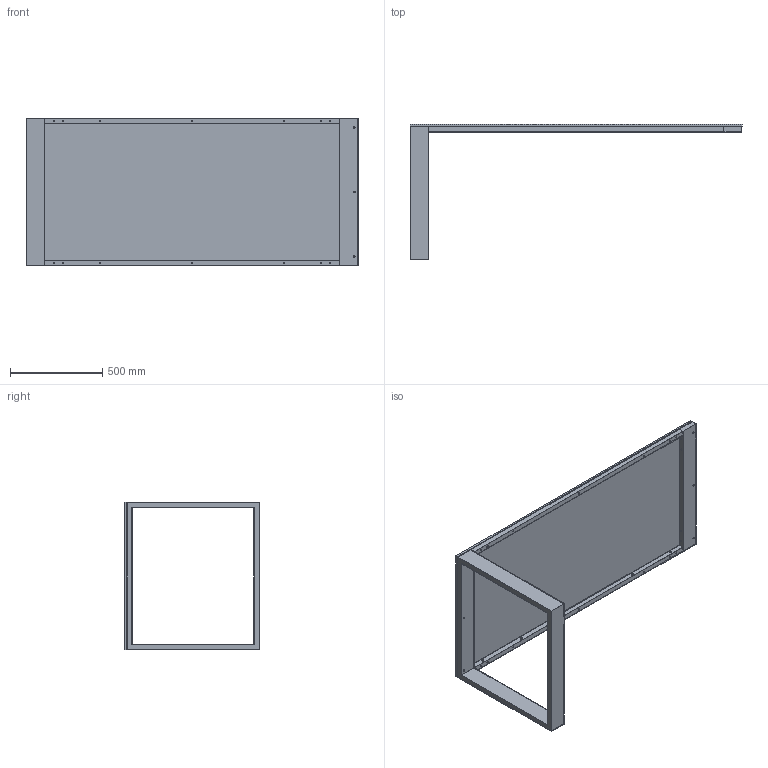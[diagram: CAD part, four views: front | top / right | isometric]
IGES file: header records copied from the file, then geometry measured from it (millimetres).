
Start section: SolidWorks IGES file using NURBS representation for surfaces
Global section: file name: G:\VICCARBE\PRODUCTOS\12-LEG-IN\04-MODELADOS (PLANOS)\SOLIDWORKS\LEG_IN 2011\ENSAMBLAJES\Mesas 3D\IGES\VICCARBE_LEB180A.IGS; native system: SolidWorks 2009; preprocessor: SolidWorks 2009; author: RUBEN; date: 111024.095108; units: millimetre
Bounding box: 1800 x 732 x 800 mm (x, y, z)
Surface area: 5543278.5 mm2 (no closed solid volume)
Topology: 0 solids, 0 shells, 215 faces, 4064 edges, 4036 vertices
Faces by surface type: bspline 215
